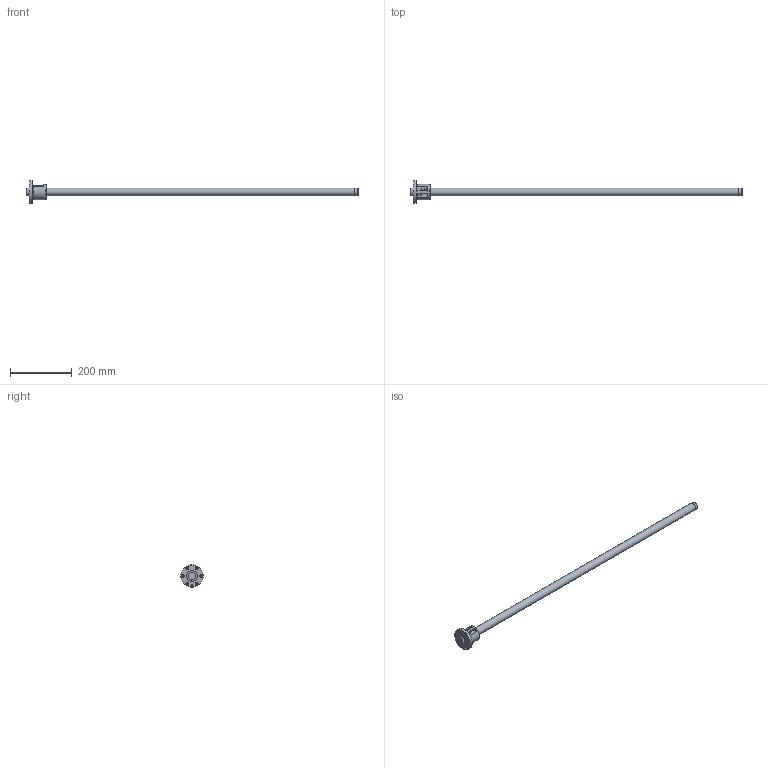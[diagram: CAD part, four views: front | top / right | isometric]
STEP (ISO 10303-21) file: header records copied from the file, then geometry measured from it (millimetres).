
FILE_DESCRIPTION( ( 'STEP AP203' ), ' ' );
FILE_NAME( 'p:/temp/worker_16/3916_4020/app_85_12018011811211625143263818fa3fd_000000_00_00_000000/format_0/BIF2505-5RRG0+1075LC0_10000.stp', '2018-01-18T10:21:17', ( '' ), ( '' ), ' ', 'PARTsolutions', ' ' );
FILE_SCHEMA( ( 'CONFIG_CONTROL_DESIGN' ) );
Length unit declared in the file: millimetre
Products named in the file (3): BIF2505-5RRG0+1075LC0_10000; _BIF 2505-5RR1000500 Shaft; _BIF 2505-5RR Nut
Assembly tree (2 placements, depth 2):
  BIF2505-5RRG0+1075LC0_10000
    _BIF 2505-5RR1000500 Shaft
    _BIF 2505-5RR Nut
Bounding box: 1075 x 73 x 73 mm (x, y, z)
Volume: 620010.2 mm3; surface area: 109310.3 mm2
Topology: 2 solids, 2 shells, 82 faces, 178 edges, 113 vertices
Faces by surface type: cylinder 39, plane 31, cone 8, torus 4
Full cylindrical faces by diameter (mm): 4.25 x2, 4.6 x4, 4.917 x1, 5.5 x6, 9.5 x6, 24.5 x2, 25 x4, 34.8 x2, 50 x1, 73 x1
Entity records: 2488 total; most frequent: CARTESIAN_POINT 697, DIRECTION 376, ORIENTED_EDGE 262, AXIS2_PLACEMENT_3D 172, EDGE_LOOP 156, EDGE_CURVE 131, FACE_OUTER_BOUND 111, VERTEX_POINT 103
